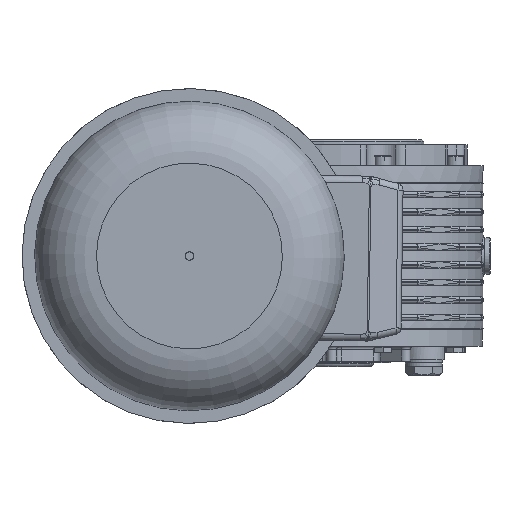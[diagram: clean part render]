
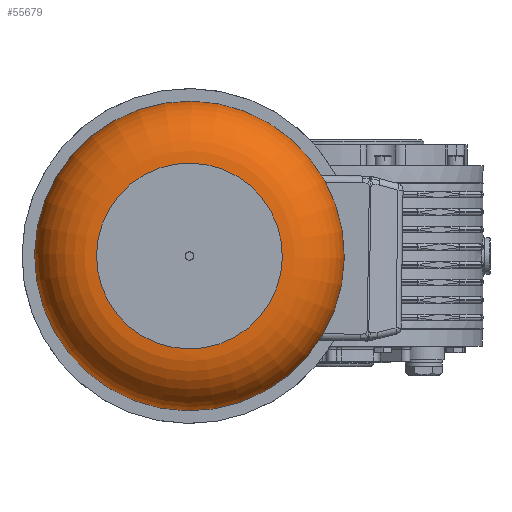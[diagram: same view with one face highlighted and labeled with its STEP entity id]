
A CAD part, left-side view. The second image highlights one B-rep face of the part: STEP entity #55679.
In plain terms, the highlighted toroidal (fillet/blend) face has major radius 55.5 mm and minor radius 37 mm.
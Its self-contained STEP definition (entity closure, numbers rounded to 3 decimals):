
#55652=CARTESIAN_POINT('',(375.0,0.0,0.0));
#55653=DIRECTION('',(1.0,0.0,0.0));
#55654=DIRECTION('',(0.0,0.0,-1.0));
#55655=AXIS2_PLACEMENT_3D('',#55652,#55653,#55654);
#55656=TOROIDAL_SURFACE('',#55655,55.5,37.0);
#55657=CARTESIAN_POINT('',(412.,55.5,0.0));
#55658=VERTEX_POINT('',#55657);
#55659=CARTESIAN_POINT('',(412.,0.0,0.0));
#55660=DIRECTION('',(1.0,0.0,0.0));
#55661=DIRECTION('',(0.0,1.0,0.0));
#55662=AXIS2_PLACEMENT_3D('',#55659,#55660,#55661);
#55663=CIRCLE('',#55662,55.5);
#55664=EDGE_CURVE('',#55658,#55658,#55663,.T.);
#55665=ORIENTED_EDGE('',*,*,#55664,.F.);
#55666=EDGE_LOOP('',(#55665));
#55667=FACE_OUTER_BOUND('',#55666,.T.);
#55668=CARTESIAN_POINT('',(375.0,92.5,0.0));
#55669=VERTEX_POINT('',#55668);
#55670=CARTESIAN_POINT('',(375.0,0.0,0.0));
#55671=DIRECTION('',(1.0,0.0,0.0));
#55672=DIRECTION('',(0.0,1.0,0.0));
#55673=AXIS2_PLACEMENT_3D('',#55670,#55671,#55672);
#55674=CIRCLE('',#55673,92.5);
#55675=EDGE_CURVE('',#55669,#55669,#55674,.T.);
#55676=ORIENTED_EDGE('',*,*,#55675,.T.);
#55677=EDGE_LOOP('',(#55676));
#55678=FACE_BOUND('',#55677,.T.);
#55679=ADVANCED_FACE('',(#55667,#55678),#55656,.T.);
